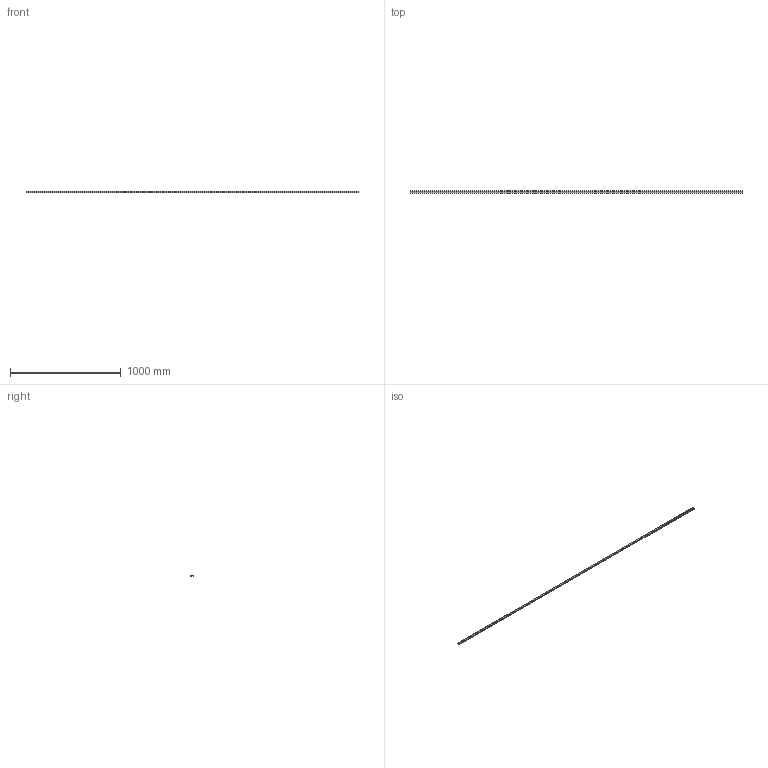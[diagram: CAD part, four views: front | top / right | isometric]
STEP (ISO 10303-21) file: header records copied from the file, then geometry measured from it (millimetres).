
FILE_DESCRIPTION (( 'STEP AP214' ), '1' );
FILE_NAME ('FABER - FL2.step', '2017-04-06T07:46:10', ( '' ), ( '' ), 'SwSTEP 2.0', 'SolidWorks 2016', '' );
FILE_SCHEMA (( 'AUTOMOTIVE_DESIGN' ));
Length unit declared in the file: millimetre
Products named in the file (1): FABER - FL2
Bounding box: 3000 x 20 x 12 mm (x, y, z)
Volume: 511500 mm3; surface area: 228341 mm2
Topology: 1 solids, 1 shells, 16 faces, 42 edges, 28 vertices
Faces by surface type: plane 16
Entity records: 520 total; most frequent: CARTESIAN_POINT 87, ORIENTED_EDGE 84, DIRECTION 76, LINE 42, VECTOR 42, EDGE_CURVE 42, VERTEX_POINT 28, AXIS2_PLACEMENT_3D 17
